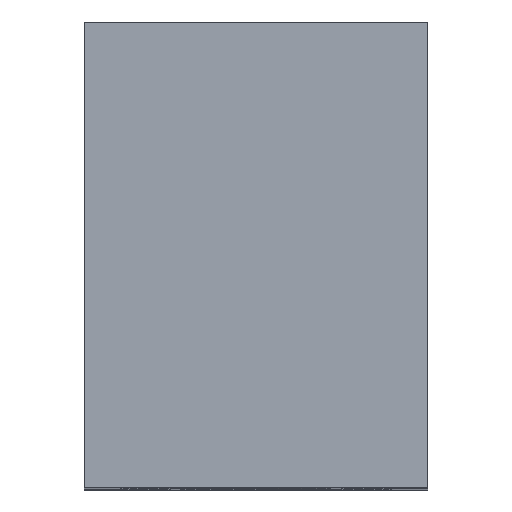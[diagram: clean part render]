
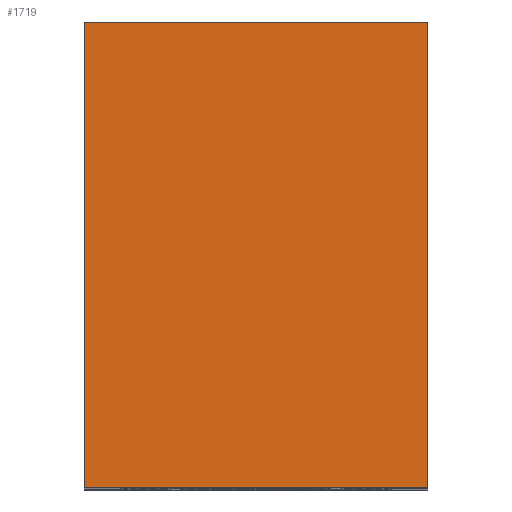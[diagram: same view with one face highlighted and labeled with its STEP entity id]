
A CAD part, top view. The second image highlights one B-rep face of the part: STEP entity #1719.
In plain terms, the highlighted planar face has unit normal (0, 0, 1).
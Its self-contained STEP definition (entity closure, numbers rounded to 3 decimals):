
#1589=CARTESIAN_POINT('',(-14.75,-20.0,61.));
#1590=VERTEX_POINT('',#1589);
#1599=CARTESIAN_POINT('',(-14.75,20.0,61.));
#1600=VERTEX_POINT('',#1599);
#1601=CARTESIAN_POINT('',(-14.75,20.0,61.));
#1602=DIRECTION('',(0.0,-1.0,0.0));
#1603=VECTOR('',#1602,40.0);
#1604=LINE('',#1601,#1603);
#1605=EDGE_CURVE('',#1600,#1590,#1604,.T.);
#1629=CARTESIAN_POINT('',(14.75,20.0,61.));
#1630=VERTEX_POINT('',#1629);
#1646=CARTESIAN_POINT('',(14.75,20.0,61.));
#1647=DIRECTION('',(-1.0,0.0,0.0));
#1648=VECTOR('',#1647,29.5);
#1649=LINE('',#1646,#1648);
#1650=EDGE_CURVE('',#1630,#1600,#1649,.T.);
#1684=CARTESIAN_POINT('',(14.75,-20.0,61.));
#1685=VERTEX_POINT('',#1684);
#1692=CARTESIAN_POINT('',(-14.75,-20.0,61.));
#1693=DIRECTION('',(1.0,0.0,0.0));
#1694=VECTOR('',#1693,29.5);
#1695=LINE('',#1692,#1694);
#1696=EDGE_CURVE('',#1590,#1685,#1695,.T.);
#1703=CARTESIAN_POINT('',(0.0,-20.0,61.));
#1704=DIRECTION('',(0.0,0.0,1.0));
#1705=DIRECTION('',(1.0,0.0,0.0));
#1706=AXIS2_PLACEMENT_3D('',#1703,#1704,#1705);
#1707=PLANE('',#1706);
#1708=CARTESIAN_POINT('',(14.75,-20.0,61.));
#1709=DIRECTION('',(0.0,1.0,0.0));
#1710=VECTOR('',#1709,40.0);
#1711=LINE('',#1708,#1710);
#1712=EDGE_CURVE('',#1685,#1630,#1711,.T.);
#1713=ORIENTED_EDGE('',*,*,#1712,.T.);
#1714=ORIENTED_EDGE('',*,*,#1650,.T.);
#1715=ORIENTED_EDGE('',*,*,#1605,.T.);
#1716=ORIENTED_EDGE('',*,*,#1696,.T.);
#1717=EDGE_LOOP('',(#1713,#1714,#1715,#1716));
#1718=FACE_OUTER_BOUND('',#1717,.T.);
#1719=ADVANCED_FACE('',(#1718),#1707,.T.);
